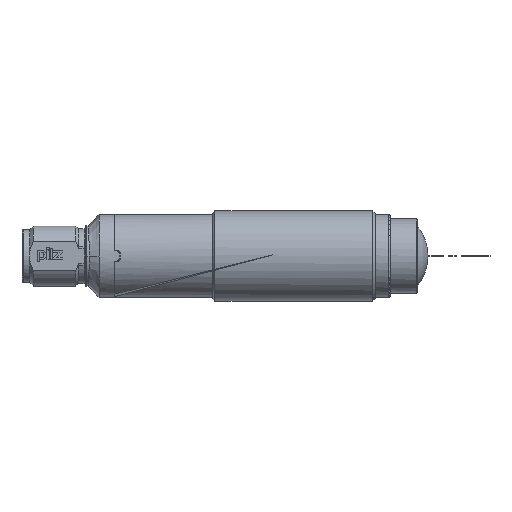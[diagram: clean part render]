
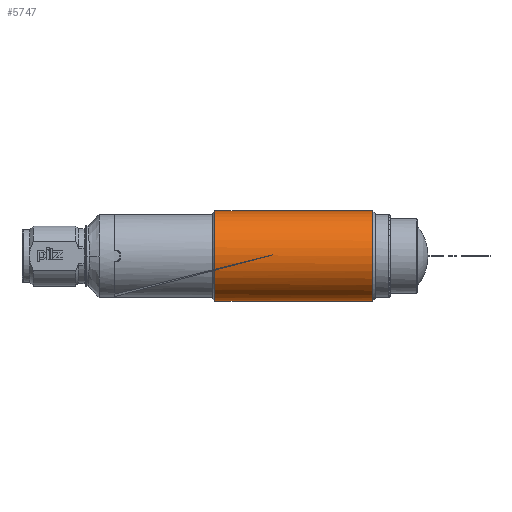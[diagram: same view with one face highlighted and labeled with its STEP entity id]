
A CAD part, front view. The second image highlights one B-rep face of the part: STEP entity #5747.
In plain terms, the highlighted cylindrical face has radius 9 mm (diameter 18 mm), a partial arc.
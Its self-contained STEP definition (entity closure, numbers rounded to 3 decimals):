
#5656=CARTESIAN_POINT('',(19.956,88.595,-0.2));
#5657=DIRECTION('',(1.,0.,0.));
#5658=DIRECTION('',(0.,0.,1.));
#5659=AXIS2_PLACEMENT_3D('',#5656,#5657,#5658);
#5664=CARTESIAN_POINT('',(-11.544,88.595,
-0.2));
#5665=DIRECTION('',(-1.,0.,0.));
#5666=DIRECTION('',(0.,0.,-1.));
#5667=AXIS2_PLACEMENT_3D('',#5664,#5665,#5666);
#5672=CARTESIAN_POINT('',(-11.544,88.595,
-0.2));
#5673=DIRECTION('',(-1.,0.,0.));
#5674=DIRECTION('',(0.,-0.037,-0.999));
#5675=AXIS2_PLACEMENT_3D('',#5672,#5673,#5674);
#5688=DIRECTION('',(1.,0.,0.));
#5689=VECTOR('',#5688,31.5);
#5690=CARTESIAN_POINT('',(-11.544,88.595,8.8));
#5691=LINE('',#5690,#5689);
#5703=DIRECTION('',(1.,0.,0.));
#5704=VECTOR('',#5703,31.5);
#5705=CARTESIAN_POINT('',(-11.544,88.595,-9.2));
#5706=LINE('',#5705,#5704);
#5718=CARTESIAN_POINT('',(19.956,88.595,-9.2));
#5719=CARTESIAN_POINT('',(19.956,88.595,8.8));
#5720=VERTEX_POINT('',#5718);
#5721=VERTEX_POINT('',#5719);
#5722=CARTESIAN_POINT('',(-11.544,88.595,8.8));
#5723=CARTESIAN_POINT('',(-11.544,88.264,
-9.194));
#5724=VERTEX_POINT('',#5722);
#5725=VERTEX_POINT('',#5723);
#5726=CARTESIAN_POINT('',(-11.544,88.595,-9.2));
#5727=VERTEX_POINT('',#5726);
#5730=CARTESIAN_POINT('',(4.206,88.595,
-0.2));
#5731=DIRECTION('',(1.,0.,0.));
#5732=DIRECTION('',(0.,0.,1.));
#5733=AXIS2_PLACEMENT_3D('',#5730,#5731,#5732);
#5734=CYLINDRICAL_SURFACE('',#5733,9.);
#5736=ORIENTED_EDGE('',*,*,#5735,.T.);
#5738=ORIENTED_EDGE('',*,*,#5737,.F.);
#5740=ORIENTED_EDGE('',*,*,#5739,.T.);
#5742=ORIENTED_EDGE('',*,*,#5741,.T.);
#5744=ORIENTED_EDGE('',*,*,#5743,.T.);
#5745=EDGE_LOOP('',(#5736,#5738,#5740,#5742,#5744));
#5746=FACE_OUTER_BOUND('',#5745,.F.);
#5747=ADVANCED_FACE('',(#5746),#5734,.T.);
#5660=CIRCLE('',#5659,9.);
#5668=CIRCLE('',#5667,9.);
#5676=CIRCLE('',#5675,9.);
#5735=EDGE_CURVE('',#5721,#5720,#5660,.T.);
#5737=EDGE_CURVE('',#5727,#5720,#5706,.T.);
#5739=EDGE_CURVE('',#5727,#5725,#5668,.T.);
#5741=EDGE_CURVE('',#5725,#5724,#5676,.T.);
#5743=EDGE_CURVE('',#5724,#5721,#5691,.T.);
